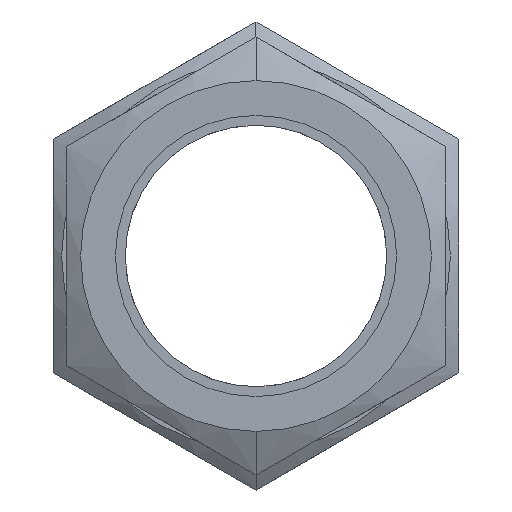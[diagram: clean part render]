
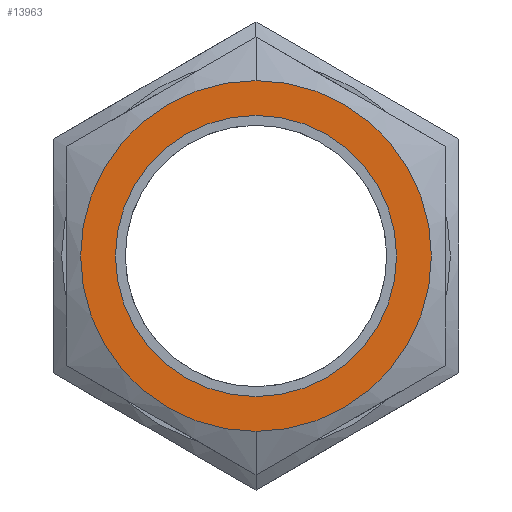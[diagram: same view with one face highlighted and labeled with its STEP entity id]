
A CAD part, left-side view. The second image highlights one B-rep face of the part: STEP entity #13963.
In plain terms, the highlighted planar face has unit normal (-1, 0, 0).
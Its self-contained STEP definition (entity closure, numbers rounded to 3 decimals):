
#704 = VERTEX_POINT ( 'NONE', #13655 ) ;
#711 = VERTEX_POINT ( 'NONE', #13662 ) ;
#714 = VERTEX_POINT ( 'NONE', #13665 ) ;
#734 = VERTEX_POINT ( 'NONE', #13685 ) ;
#3317 = FACE_OUTER_BOUND ( 'NONE', #13588, .T. ) ;
#3321 = CARTESIAN_POINT ( 'NONE',  ( -813.508, -21.5, 71.953 ) ) ;
#3325 = FACE_BOUND ( 'NONE', #13583, .T. ) ;
#3326 = PLANE ( 'NONE',  #6132 ) ;
#3328 = DIRECTION ( 'NONE',  ( 1., 0., 0. ) ) ;
#3329 = DIRECTION ( 'NONE',  ( 0., 0., 1. ) ) ;
#6132 = AXIS2_PLACEMENT_3D ( 'NONE', #3321, #3328, #3329 ) ;
#9384 = CARTESIAN_POINT ( 'NONE',  ( -813.508, 0., 71.953 ) ) ;
#9385 = DIRECTION ( 'NONE',  ( 1., 0., 0. ) ) ;
#9386 = DIRECTION ( 'NONE',  ( 0., 0., 1. ) ) ;
#9488 = CARTESIAN_POINT ( 'NONE',  ( -813.508, 0., 71.953 ) ) ;
#9489 = DIRECTION ( 'NONE',  ( 1., 0., 0. ) ) ;
#9490 = DIRECTION ( 'NONE',  ( 0., 0., 1. ) ) ;
#10746 = ORIENTED_EDGE ( 'NONE', *, *, #14291, .T. ) ;
#10748 = ORIENTED_EDGE ( 'NONE', *, *, #14171, .T. ) ;
#10750 = ORIENTED_EDGE ( 'NONE', *, *, #14150, .F. ) ;
#10752 = ORIENTED_EDGE ( 'NONE', *, *, #14306, .F. ) ;
#10860 = CARTESIAN_POINT ( 'NONE',  ( -813.508, 0., 71.953 ) ) ;
#10862 = DIRECTION ( 'NONE',  ( 1., 0., 0. ) ) ;
#10864 = DIRECTION ( 'NONE',  ( 0., 0., 1. ) ) ;
#11206 = CARTESIAN_POINT ( 'NONE',  ( -813.508, 0., 71.953 ) ) ;
#11208 = DIRECTION ( 'NONE',  ( 1., 0., 0. ) ) ;
#11210 = DIRECTION ( 'NONE',  ( 0., 0., 1. ) ) ;
#13583 = EDGE_LOOP ( 'NONE', ( #10746, #10748 ) ) ;
#13588 = EDGE_LOOP ( 'NONE', ( #10750, #10752 ) ) ;
#13655 = CARTESIAN_POINT ( 'NONE',  ( -813.508, 0., 93.453 ) ) ;
#13662 = CARTESIAN_POINT ( 'NONE',  ( -813.508, 0., 45.119 ) ) ;
#13665 = CARTESIAN_POINT ( 'NONE',  ( -813.508, 0., 98.787 ) ) ;
#13685 = CARTESIAN_POINT ( 'NONE',  ( -813.508, 0., 50.453 ) ) ;
#13963 = ADVANCED_FACE ( 'NONE', ( #3325, #3317 ), #3326, .F. ) ;
#14150 = EDGE_CURVE ( 'NONE', #714, #711, #15530, .T. ) ;
#14171 = EDGE_CURVE ( 'NONE', #734, #704, #15655, .T. ) ;
#14291 = EDGE_CURVE ( 'NONE', #704, #734, #15442, .T. ) ;
#14306 = EDGE_CURVE ( 'NONE', #711, #714, #15423, .T. ) ;
#15415 = AXIS2_PLACEMENT_3D ( 'NONE', #9488, #9489, #9490 ) ;
#15423 = CIRCLE ( 'NONE', #15415, 26.834 ) ;
#15439 = AXIS2_PLACEMENT_3D ( 'NONE', #9384, #9385, #9386 ) ;
#15442 = CIRCLE ( 'NONE', #15439, 21.5 ) ;
#15510 = AXIS2_PLACEMENT_3D ( 'NONE', #10860, #10862, #10864 ) ;
#15530 = CIRCLE ( 'NONE', #15510, 26.834 ) ;
#15655 = CIRCLE ( 'NONE', #15664, 21.5 ) ;
#15664 = AXIS2_PLACEMENT_3D ( 'NONE', #11206, #11208, #11210 ) ;
